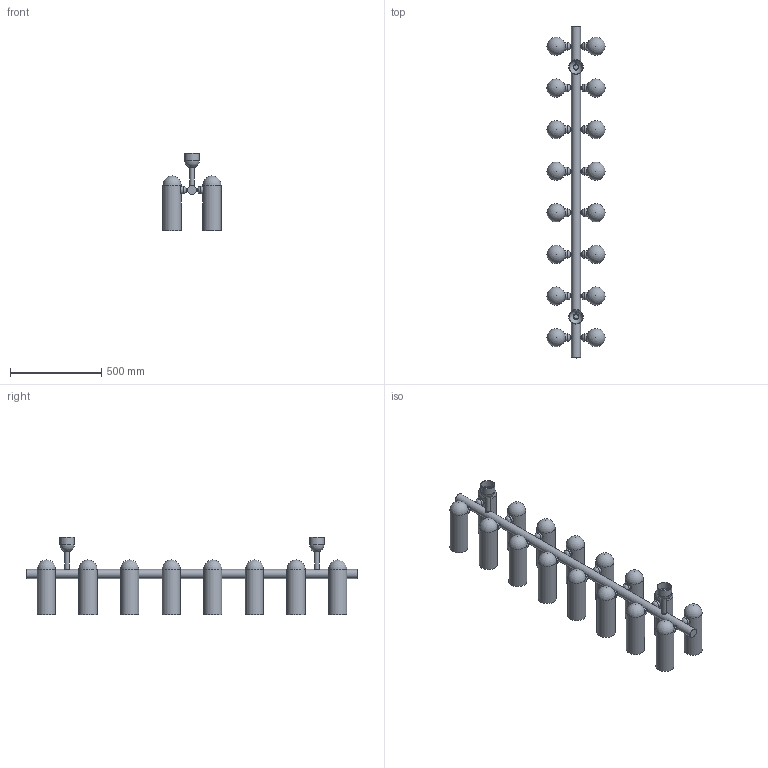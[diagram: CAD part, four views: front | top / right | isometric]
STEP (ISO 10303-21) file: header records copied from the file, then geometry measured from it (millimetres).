
FILE_DESCRIPTION(/* description */ (''),/* implementation_level */ '2;1');
FILE_NAME(/* name */ 'T:\B158 Odyssey Linear Chandelier LG\Pliki bryłowe handlowe\B158 Odyssey Linear LG 3D files\B158 Odyssey Linear LG.stp',/* time_stamp */ '2022-01-25T10:36:48+01:00',/* author */ ('Mariusz Awariusz'),/* organization */ (''),/* preprocessor_version */ 'ST-DEVELOPER v18.1',/* originating_system */ 'Autodesk Inventor 2022',/* authorisation */ '');
FILE_SCHEMA (('AUTOMOTIVE_DESIGN { 1 0 10303 214 3 1 1 }'));
Length unit declared in the file: millimetre
Products named in the file (1): B158 Odyssey Linear Chandelier LG CE v12_na potrzeby plików 3D_2_
jako część
Bounding box: 319.1 x 1824 x 424 mm (x, y, z)
Volume: 40003464.4 mm3; surface area: 2075099.7 mm2
Topology: 3 solids, 3 shells, 221 faces, 551 edges, 366 vertices
Faces by surface type: cylinder 101, bspline 50, plane 44, sphere 22, cone 4
Full cylindrical faces by diameter (mm): 4 x2, 13 x16, 25 x6, 30 x2, 31.5 x2, 32 x2, 42 x16, 50 x3, 76 x2, 80 x2, 100 x16
Entity records: 9066 total; most frequent: CARTESIAN_POINT 4115, ORIENTED_EDGE 1070, DIRECTION 941, EDGE_CURVE 535, AXIS2_PLACEMENT_3D 430, VERTEX_POINT 366, EDGE_LOOP 275, CIRCLE 258
